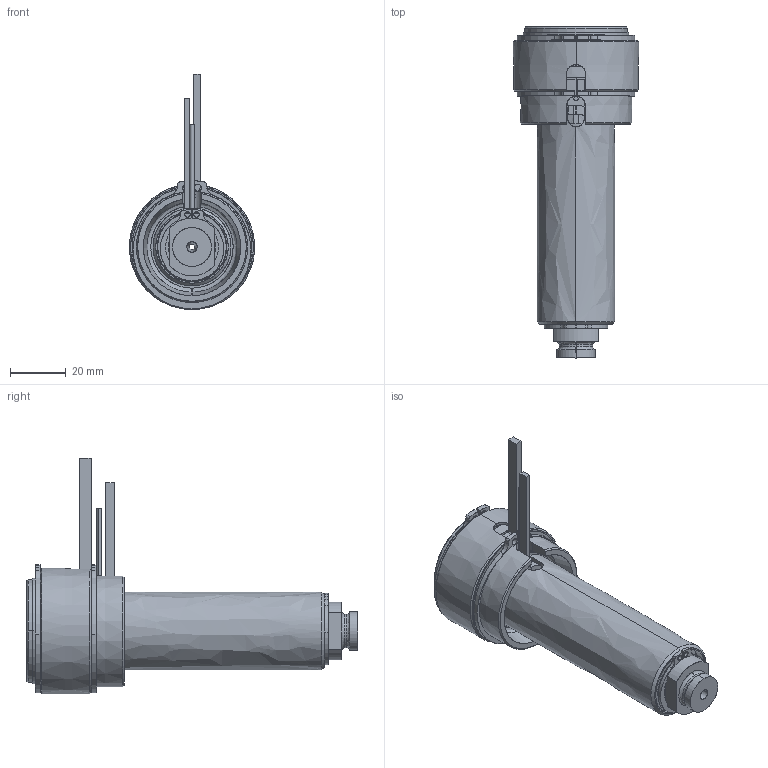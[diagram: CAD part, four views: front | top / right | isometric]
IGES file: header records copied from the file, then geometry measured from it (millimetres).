
Start section: SolidWorks IGES file using analytic representation for surfaces
Global section: file name: C:\Documents and Settings\ws-20\Desktop\TEM\UGBE4502-M-A-5 [Ød-2.0 P-0 ØC-10].IGS; native system: SolidWorks 2012; preprocessor: SolidWorks 2012; author: ws-20; date: 120412.154355; units: millimetre
Bounding box: 45 x 119.25 x 84.5 mm (x, y, z)
Surface area: 46221.5 mm2 (no closed solid volume)
Topology: 0 solids, 0 shells, 165 faces, 3133 edges, 3133 vertices
Faces by surface type: revolution 99, bspline 66
